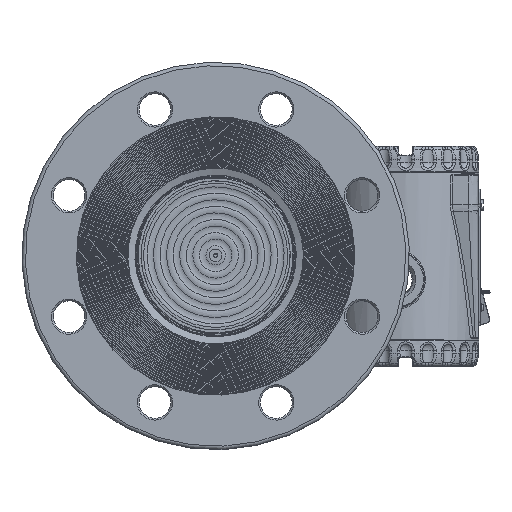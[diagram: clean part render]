
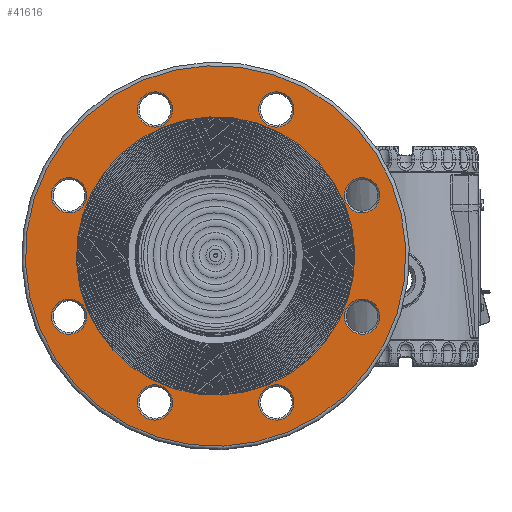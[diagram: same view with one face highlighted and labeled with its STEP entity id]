
A CAD part, top view. The second image highlights one B-rep face of the part: STEP entity #41616.
In plain terms, the highlighted planar face has unit normal (0, 0, 1).
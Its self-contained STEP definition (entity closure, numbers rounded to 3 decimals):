
#695=FACE_BOUND('',#6939,.T.);
#696=FACE_BOUND('',#6940,.T.);
#697=FACE_BOUND('',#6941,.T.);
#698=FACE_BOUND('',#6942,.T.);
#699=FACE_BOUND('',#6943,.T.);
#700=FACE_BOUND('',#6944,.T.);
#701=FACE_BOUND('',#6945,.T.);
#702=FACE_BOUND('',#6946,.T.);
#703=FACE_BOUND('',#6947,.T.);
#2713=PLANE('',#46302);
#4145=FACE_OUTER_BOUND('',#6938,.T.);
#6938=EDGE_LOOP('',(#31840));
#6939=EDGE_LOOP('',(#31841));
#6940=EDGE_LOOP('',(#31842));
#6941=EDGE_LOOP('',(#31843));
#6942=EDGE_LOOP('',(#31844));
#6943=EDGE_LOOP('',(#31845));
#6944=EDGE_LOOP('',(#31846));
#6945=EDGE_LOOP('',(#31847));
#6946=EDGE_LOOP('',(#31848));
#6947=EDGE_LOOP('',(#31849));
#13778=CIRCLE('',#46301,108.);
#13779=CIRCLE('',#46303,10.);
#13780=CIRCLE('',#46304,10.);
#13781=CIRCLE('',#46305,10.);
#13782=CIRCLE('',#46306,10.);
#13783=CIRCLE('',#46307,79.);
#13784=CIRCLE('',#46308,10.);
#13785=CIRCLE('',#46309,10.);
#13786=CIRCLE('',#46310,10.);
#13787=CIRCLE('',#46311,10.);
#18309=VERTEX_POINT('',#73689);
#18310=VERTEX_POINT('',#73693);
#18311=VERTEX_POINT('',#73695);
#18312=VERTEX_POINT('',#73697);
#18313=VERTEX_POINT('',#73699);
#18314=VERTEX_POINT('',#73701);
#18315=VERTEX_POINT('',#73703);
#18316=VERTEX_POINT('',#73705);
#18317=VERTEX_POINT('',#73707);
#18318=VERTEX_POINT('',#73709);
#23112=EDGE_CURVE('',#18309,#18309,#13778,.T.);
#23113=EDGE_CURVE('',#18310,#18310,#13779,.T.);
#23114=EDGE_CURVE('',#18311,#18311,#13780,.T.);
#23115=EDGE_CURVE('',#18312,#18312,#13781,.T.);
#23116=EDGE_CURVE('',#18313,#18313,#13782,.T.);
#23117=EDGE_CURVE('',#18314,#18314,#13783,.T.);
#23118=EDGE_CURVE('',#18315,#18315,#13784,.T.);
#23119=EDGE_CURVE('',#18316,#18316,#13785,.T.);
#23120=EDGE_CURVE('',#18317,#18317,#13786,.T.);
#23121=EDGE_CURVE('',#18318,#18318,#13787,.T.);
#31840=ORIENTED_EDGE('',*,*,#23112,.F.);
#31841=ORIENTED_EDGE('',*,*,#23113,.F.);
#31842=ORIENTED_EDGE('',*,*,#23114,.F.);
#31843=ORIENTED_EDGE('',*,*,#23115,.F.);
#31844=ORIENTED_EDGE('',*,*,#23116,.F.);
#31845=ORIENTED_EDGE('',*,*,#23117,.F.);
#31846=ORIENTED_EDGE('',*,*,#23118,.F.);
#31847=ORIENTED_EDGE('',*,*,#23119,.F.);
#31848=ORIENTED_EDGE('',*,*,#23120,.F.);
#31849=ORIENTED_EDGE('',*,*,#23121,.F.);
#41616=ADVANCED_FACE('',(#4145,#695,#696,#697,#698,#699,#700,#701,#702,
#703),#2713,.T.);
#46301=AXIS2_PLACEMENT_3D('',#73691,#54648,#54649);
#46302=AXIS2_PLACEMENT_3D('',#73692,#54650,#54651);
#46303=AXIS2_PLACEMENT_3D('',#73694,#54652,#54653);
#46304=AXIS2_PLACEMENT_3D('',#73696,#54654,#54655);
#46305=AXIS2_PLACEMENT_3D('',#73698,#54656,#54657);
#46306=AXIS2_PLACEMENT_3D('',#73700,#54658,#54659);
#46307=AXIS2_PLACEMENT_3D('',#73702,#54660,#54661);
#46308=AXIS2_PLACEMENT_3D('',#73704,#54662,#54663);
#46309=AXIS2_PLACEMENT_3D('',#73706,#54664,#54665);
#46310=AXIS2_PLACEMENT_3D('',#73708,#54666,#54667);
#46311=AXIS2_PLACEMENT_3D('',#73710,#54668,#54669);
#54648=DIRECTION('center_axis',(0.,0.,-1.));
#54649=DIRECTION('ref_axis',(-1.,0.,0.));
#54650=DIRECTION('center_axis',(0.,0.,1.));
#54651=DIRECTION('ref_axis',(1.,0.,0.));
#54652=DIRECTION('center_axis',(0.,0.,1.));
#54653=DIRECTION('ref_axis',(-0.707,0.707,0.));
#54654=DIRECTION('center_axis',(0.,0.,1.));
#54655=DIRECTION('ref_axis',(0.707,0.707,0.));
#54656=DIRECTION('center_axis',(0.,0.,1.));
#54657=DIRECTION('ref_axis',(-0.707,-0.707,0.));
#54658=DIRECTION('center_axis',(0.,0.,1.));
#54659=DIRECTION('ref_axis',(0.,-1.,0.));
#54660=DIRECTION('center_axis',(0.,0.,1.));
#54661=DIRECTION('ref_axis',(-1.,0.,0.));
#54662=DIRECTION('center_axis',(0.,0.,1.));
#54663=DIRECTION('ref_axis',(0.707,-0.707,0.));
#54664=DIRECTION('center_axis',(0.,0.,1.));
#54665=DIRECTION('ref_axis',(-1.,0.,0.));
#54666=DIRECTION('center_axis',(0.,0.,1.));
#54667=DIRECTION('ref_axis',(1.,0.,0.));
#54668=DIRECTION('center_axis',(0.,0.,1.));
#54669=DIRECTION('ref_axis',(0.,1.,0.));
#73689=CARTESIAN_POINT('',(108.,0.,17.));
#73691=CARTESIAN_POINT('Origin',(0.,0.,17.));
#73692=CARTESIAN_POINT('Origin',(0.,0.,
17.));
#73693=CARTESIAN_POINT('',(70.711,56.569,17.));
#73694=CARTESIAN_POINT('Origin',(63.64,63.64,17.));
#73695=CARTESIAN_POINT('',(56.569,-70.711,17.));
#73696=CARTESIAN_POINT('Origin',(63.64,-63.64,17.));
#73697=CARTESIAN_POINT('',(-56.569,70.711,17.));
#73698=CARTESIAN_POINT('Origin',(-63.64,63.64,17.));
#73699=CARTESIAN_POINT('',(-90.,10.,17.));
#73700=CARTESIAN_POINT('Origin',(-90.,0.,17.));
#73701=CARTESIAN_POINT('',(79.,0.,17.));
#73702=CARTESIAN_POINT('Origin',(0.,0.,17.));
#73703=CARTESIAN_POINT('',(-70.711,-56.569,17.));
#73704=CARTESIAN_POINT('Origin',(-63.64,-63.64,17.));
#73705=CARTESIAN_POINT('',(10.,90.,17.));
#73706=CARTESIAN_POINT('Origin',(0.,90.,17.));
#73707=CARTESIAN_POINT('',(-10.,-90.,17.));
#73708=CARTESIAN_POINT('Origin',(0.,-90.,17.));
#73709=CARTESIAN_POINT('',(90.,-10.,17.));
#73710=CARTESIAN_POINT('Origin',(90.,0.,17.));
